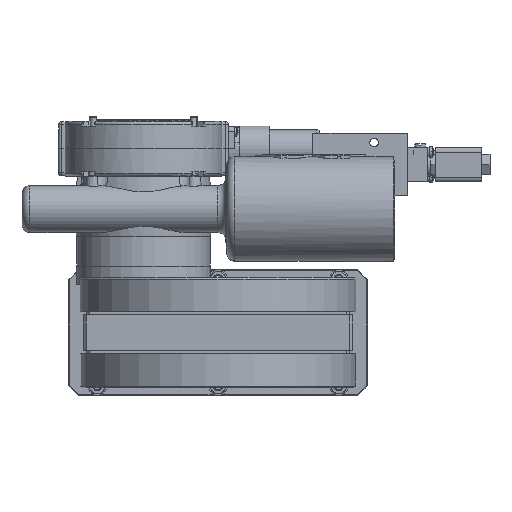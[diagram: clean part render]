
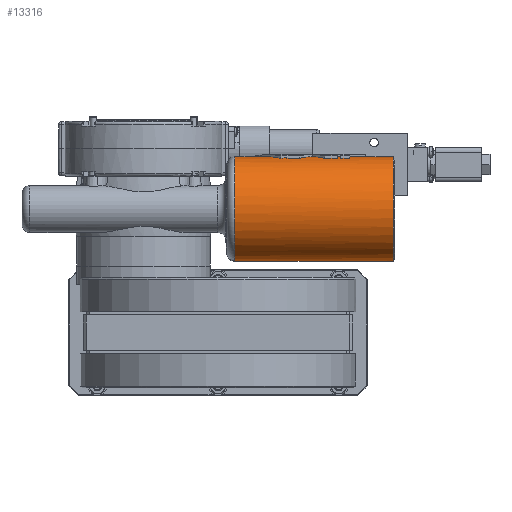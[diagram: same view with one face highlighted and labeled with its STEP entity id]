
A CAD part, left-side view. The second image highlights one B-rep face of the part: STEP entity #13316.
In plain terms, the highlighted cylindrical face has radius 33.3 mm (diameter 66.6 mm), a full revolution.
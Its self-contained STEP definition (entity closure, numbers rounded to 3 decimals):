
#8099=LINE('',#55514,#10135);
#8108=LINE('',#55547,#10144);
#8118=LINE('',#55614,#10154);
#8119=LINE('',#55618,#10155);
#8120=LINE('',#55622,#10156);
#8121=LINE('',#55626,#10157);
#8122=LINE('',#55629,#10158);
#8123=LINE('',#55636,#10159);
#8124=LINE('',#55644,#10160);
#8125=LINE('',#55650,#10161);
#10135=VECTOR('',#43013,1.);
#10144=VECTOR('',#43040,1.);
#10154=VECTOR('',#43084,1.);
#10155=VECTOR('',#43087,1.);
#10156=VECTOR('',#43090,1.);
#10157=VECTOR('',#43093,1.);
#10158=VECTOR('',#43096,1.);
#10159=VECTOR('',#43101,1.);
#10160=VECTOR('',#43108,1.);
#10161=VECTOR('',#43113,1.);
#13316=ADVANCED_FACE('',(#15669,#15670,#15671,#15672,#15673),#14645,.T.);
#14645=CYLINDRICAL_SURFACE('',#37055,33.3);
#15075=ELLIPSE('',#37041,479.014,33.3);
#15076=ELLIPSE('',#37047,47.093,33.3);
#15077=ELLIPSE('',#37048,47.093,33.3);
#15078=ELLIPSE('',#37049,47.093,33.3);
#15079=ELLIPSE('',#37050,47.093,33.3);
#15080=ELLIPSE('',#37051,47.093,33.3);
#15081=ELLIPSE('',#37052,47.093,33.3);
#15082=ELLIPSE('',#37053,47.093,33.3);
#15083=ELLIPSE('',#37054,47.093,33.3);
#15669=FACE_BOUND('',#17700,.T.);
#15670=FACE_BOUND('',#17701,.T.);
#15671=FACE_BOUND('',#17702,.T.);
#15672=FACE_BOUND('',#17703,.T.);
#15673=FACE_BOUND('',#17704,.T.);
#17700=EDGE_LOOP('',(#22874,#22875,#22876,#22877));
#17701=EDGE_LOOP('',(#22878,#22879,#22880,#22881,#22882,#22883,#22884,#22885));
#17702=EDGE_LOOP('',(#22886));
#17703=EDGE_LOOP('',(#22887,#22888,#22889,#22890,#22891,#22892));
#17704=EDGE_LOOP('',(#22893,#22894,#22895,#22896,#22897,#22898));
#22874=ORIENTED_EDGE('',*,*,#31871,.F.);
#22875=ORIENTED_EDGE('',*,*,#31913,.T.);
#22876=ORIENTED_EDGE('',*,*,#31888,.T.);
#22877=ORIENTED_EDGE('',*,*,#31914,.F.);
#22878=ORIENTED_EDGE('',*,*,#31915,.F.);
#22879=ORIENTED_EDGE('',*,*,#31916,.F.);
#22880=ORIENTED_EDGE('',*,*,#31917,.F.);
#22881=ORIENTED_EDGE('',*,*,#31918,.F.);
#22882=ORIENTED_EDGE('',*,*,#31919,.T.);
#22883=ORIENTED_EDGE('',*,*,#31920,.F.);
#22884=ORIENTED_EDGE('',*,*,#31921,.F.);
#22885=ORIENTED_EDGE('',*,*,#31922,.F.);
#22886=ORIENTED_EDGE('',*,*,#31923,.F.);
#22887=ORIENTED_EDGE('',*,*,#31924,.T.);
#22888=ORIENTED_EDGE('',*,*,#31925,.T.);
#22889=ORIENTED_EDGE('',*,*,#31926,.T.);
#22890=ORIENTED_EDGE('',*,*,#31927,.T.);
#22891=ORIENTED_EDGE('',*,*,#31928,.T.);
#22892=ORIENTED_EDGE('',*,*,#31929,.T.);
#22893=ORIENTED_EDGE('',*,*,#31930,.F.);
#22894=ORIENTED_EDGE('',*,*,#31931,.F.);
#22895=ORIENTED_EDGE('',*,*,#31932,.F.);
#22896=ORIENTED_EDGE('',*,*,#31933,.F.);
#22897=ORIENTED_EDGE('',*,*,#31934,.F.);
#22898=ORIENTED_EDGE('',*,*,#31935,.F.);
#28521=VERTEX_POINT('',#55513);
#28522=VERTEX_POINT('',#55515);
#28537=VERTEX_POINT('',#55548);
#28538=VERTEX_POINT('',#55549);
#28559=VERTEX_POINT('',#55612);
#28560=VERTEX_POINT('',#55613);
#28561=VERTEX_POINT('',#55615);
#28562=VERTEX_POINT('',#55617);
#28563=VERTEX_POINT('',#55619);
#28564=VERTEX_POINT('',#55621);
#28565=VERTEX_POINT('',#55623);
#28566=VERTEX_POINT('',#55625);
#28567=VERTEX_POINT('',#55628);
#28568=VERTEX_POINT('',#55630);
#28569=VERTEX_POINT('',#55631);
#28570=VERTEX_POINT('',#55633);
#28571=VERTEX_POINT('',#55635);
#28572=VERTEX_POINT('',#55637);
#28573=VERTEX_POINT('',#55639);
#28574=VERTEX_POINT('',#55642);
#28575=VERTEX_POINT('',#55643);
#28576=VERTEX_POINT('',#55645);
#28577=VERTEX_POINT('',#55647);
#28578=VERTEX_POINT('',#55649);
#28579=VERTEX_POINT('',#55651);
#31871=EDGE_CURVE('',#28521,#28522,#8099,.T.);
#31888=EDGE_CURVE('',#28537,#28538,#8108,.T.);
#31913=EDGE_CURVE('',#28521,#28537,#34621,.T.);
#31914=EDGE_CURVE('',#28522,#28538,#15075,.T.);
#31915=EDGE_CURVE('',#28559,#28560,#34622,.T.);
#31916=EDGE_CURVE('',#28561,#28559,#8118,.T.);
#31917=EDGE_CURVE('',#28562,#28561,#34623,.T.);
#31918=EDGE_CURVE('',#28563,#28562,#8119,.T.);
#31919=EDGE_CURVE('',#28563,#28564,#34624,.T.);
#31920=EDGE_CURVE('',#28565,#28564,#8120,.T.);
#31921=EDGE_CURVE('',#28566,#28565,#34625,.T.);
#31922=EDGE_CURVE('',#28560,#28566,#8121,.T.);
#31923=EDGE_CURVE('',#28567,#28567,#34626,.T.);
#31924=EDGE_CURVE('',#28568,#28569,#8122,.T.);
#31925=EDGE_CURVE('',#28569,#28570,#15076,.T.);
#31926=EDGE_CURVE('',#28570,#28571,#15077,.T.);
#31927=EDGE_CURVE('',#28571,#28572,#8123,.T.);
#31928=EDGE_CURVE('',#28572,#28573,#15078,.T.);
#31929=EDGE_CURVE('',#28573,#28568,#15079,.T.);
#31930=EDGE_CURVE('',#28574,#28575,#15080,.T.);
#31931=EDGE_CURVE('',#28576,#28574,#8124,.T.);
#31932=EDGE_CURVE('',#28577,#28576,#15081,.T.);
#31933=EDGE_CURVE('',#28578,#28577,#15082,.T.);
#31934=EDGE_CURVE('',#28579,#28578,#8125,.T.);
#31935=EDGE_CURVE('',#28575,#28579,#15083,.T.);
#34621=CIRCLE('',#37040,33.3);
#34622=CIRCLE('',#37042,33.3);
#34623=CIRCLE('',#37043,33.3);
#34624=CIRCLE('',#37044,33.3);
#34625=CIRCLE('',#37045,33.3);
#34626=CIRCLE('',#37046,33.3);
#37040=AXIS2_PLACEMENT_3D('',#55609,#43078,#43079);
#37041=AXIS2_PLACEMENT_3D('',#55610,#43080,#43081);
#37042=AXIS2_PLACEMENT_3D('',#55611,#43082,#43083);
#37043=AXIS2_PLACEMENT_3D('',#55616,#43085,#43086);
#37044=AXIS2_PLACEMENT_3D('',#55620,#43088,#43089);
#37045=AXIS2_PLACEMENT_3D('',#55624,#43091,#43092);
#37046=AXIS2_PLACEMENT_3D('',#55627,#43094,#43095);
#37047=AXIS2_PLACEMENT_3D('',#55632,#43097,#43098);
#37048=AXIS2_PLACEMENT_3D('',#55634,#43099,#43100);
#37049=AXIS2_PLACEMENT_3D('',#55638,#43102,#43103);
#37050=AXIS2_PLACEMENT_3D('',#55640,#43104,#43105);
#37051=AXIS2_PLACEMENT_3D('',#55641,#43106,#43107);
#37052=AXIS2_PLACEMENT_3D('',#55646,#43109,#43110);
#37053=AXIS2_PLACEMENT_3D('',#55648,#43111,#43112);
#37054=AXIS2_PLACEMENT_3D('',#55652,#43114,#43115);
#37055=AXIS2_PLACEMENT_3D('',#55653,#43116,#43117);
#43013=DIRECTION('',(1.,0.,0.));
#43040=DIRECTION('',(1.,0.,0.));
#43078=DIRECTION('',(1.,0.,0.));
#43079=DIRECTION('',(0.,1.,0.));
#43080=DIRECTION('',(-0.07,-0.998,0.));
#43081=DIRECTION('',(0.998,-0.07,0.));
#43082=DIRECTION('',(1.,0.,0.));
#43083=DIRECTION('',(0.,0.,-1.));
#43084=DIRECTION('',(1.,0.,0.));
#43085=DIRECTION('',(1.,0.,0.));
#43086=DIRECTION('',(0.,0.,-1.));
#43087=DIRECTION('',(-1.,0.,0.));
#43088=DIRECTION('',(1.,0.,0.));
#43089=DIRECTION('',(0.,1.,0.));
#43090=DIRECTION('',(1.,0.,0.));
#43091=DIRECTION('',(-1.,0.,0.));
#43092=DIRECTION('',(0.,0.,1.));
#43093=DIRECTION('',(1.,0.,0.));
#43094=DIRECTION('',(1.,0.,0.));
#43095=DIRECTION('',(0.,1.,0.));
#43096=DIRECTION('',(1.,0.,0.));
#43097=DIRECTION('',(0.707,0.707,0.));
#43098=DIRECTION('',(0.707,-0.707,0.));
#43099=DIRECTION('',(-0.707,0.707,0.));
#43100=DIRECTION('',(0.707,0.707,0.));
#43101=DIRECTION('',(1.,0.,0.));
#43102=DIRECTION('',(0.707,-0.707,0.));
#43103=DIRECTION('',(0.707,0.707,0.));
#43104=DIRECTION('',(-0.707,-0.707,0.));
#43105=DIRECTION('',(0.707,-0.707,0.));
#43106=DIRECTION('',(-0.707,-0.707,0.));
#43107=DIRECTION('',(0.707,-0.707,0.));
#43108=DIRECTION('',(1.,0.,0.));
#43109=DIRECTION('',(0.707,0.707,0.));
#43110=DIRECTION('',(0.707,-0.707,0.));
#43111=DIRECTION('',(-0.707,0.707,0.));
#43112=DIRECTION('',(0.707,0.707,0.));
#43113=DIRECTION('',(1.,0.,0.));
#43114=DIRECTION('',(0.707,-0.707,0.));
#43115=DIRECTION('',(0.707,0.707,0.));
#43116=DIRECTION('',(1.,0.,0.));
#43117=DIRECTION('',(0.,1.,0.));
#55513=CARTESIAN_POINT('',(58.182,32.863,5.375));
#55514=CARTESIAN_POINT('',(160.2,32.863,5.375));
#55515=CARTESIAN_POINT('',(159.199,32.863,5.375));
#55547=CARTESIAN_POINT('',(160.2,32.863,-5.375));
#55548=CARTESIAN_POINT('',(58.182,32.863,-5.375));
#55549=CARTESIAN_POINT('',(159.199,32.863,-5.375));
#55609=CARTESIAN_POINT('',(58.182,0.,0.));
#55610=CARTESIAN_POINT('',(630.789,0.,0.));
#55611=CARTESIAN_POINT('',(125.7,0.,0.));
#55612=CARTESIAN_POINT('',(125.7,2.4,33.213));
#55613=CARTESIAN_POINT('',(125.7,-8.,32.325));
#55614=CARTESIAN_POINT('',(-21.757,2.4,33.213));
#55615=CARTESIAN_POINT('',(115.3,2.4,33.213));
#55616=CARTESIAN_POINT('',(115.3,0.,0.));
#55617=CARTESIAN_POINT('',(115.3,8.,32.325));
#55618=CARTESIAN_POINT('',(-21.757,8.,32.325));
#55619=CARTESIAN_POINT('',(141.7,8.,32.325));
#55620=CARTESIAN_POINT('',(141.7,0.,0.));
#55621=CARTESIAN_POINT('',(141.7,2.4,33.213));
#55622=CARTESIAN_POINT('',(-21.757,2.4,33.213));
#55623=CARTESIAN_POINT('',(131.3,2.4,33.213));
#55624=CARTESIAN_POINT('',(131.3,0.,0.));
#55625=CARTESIAN_POINT('',(131.3,-8.,32.325));
#55626=CARTESIAN_POINT('',(-21.757,-8.,32.325));
#55627=CARTESIAN_POINT('',(159.2,0.,0.));
#55628=CARTESIAN_POINT('',(159.2,33.3,0.));
#55629=CARTESIAN_POINT('',(-21.757,8.,32.325));
#55630=CARTESIAN_POINT('',(71.619,8.,32.325));
#55631=CARTESIAN_POINT('',(79.538,8.,32.325));
#55632=CARTESIAN_POINT('',(87.538,0.,0.));
#55633=CARTESIAN_POINT('',(87.619,-0.08,33.3));
#55634=CARTESIAN_POINT('',(87.699,0.,0.));
#55635=CARTESIAN_POINT('',(95.699,8.,32.325));
#55636=CARTESIAN_POINT('',(-21.757,8.,32.325));
#55637=CARTESIAN_POINT('',(103.619,8.,32.325));
#55638=CARTESIAN_POINT('',(95.619,0.,0.));
#55639=CARTESIAN_POINT('',(87.619,-8.,32.325));
#55640=CARTESIAN_POINT('',(79.619,0.,0.));
#55641=CARTESIAN_POINT('',(115.437,0.,0.));
#55642=CARTESIAN_POINT('',(123.437,-8.,32.325));
#55643=CARTESIAN_POINT('',(107.437,8.,32.325));
#55644=CARTESIAN_POINT('',(-21.757,-8.,32.325));
#55645=CARTESIAN_POINT('',(115.518,-8.,32.325));
#55646=CARTESIAN_POINT('',(107.518,0.,0.));
#55647=CARTESIAN_POINT('',(107.437,0.08,33.3));
#55648=CARTESIAN_POINT('',(107.357,0.,0.));
#55649=CARTESIAN_POINT('',(99.357,-8.,32.325));
#55650=CARTESIAN_POINT('',(-21.757,-8.,32.325));
#55651=CARTESIAN_POINT('',(91.437,-8.,32.325));
#55652=CARTESIAN_POINT('',(99.437,0.,0.));
#55653=CARTESIAN_POINT('',(160.2,0.,0.));
